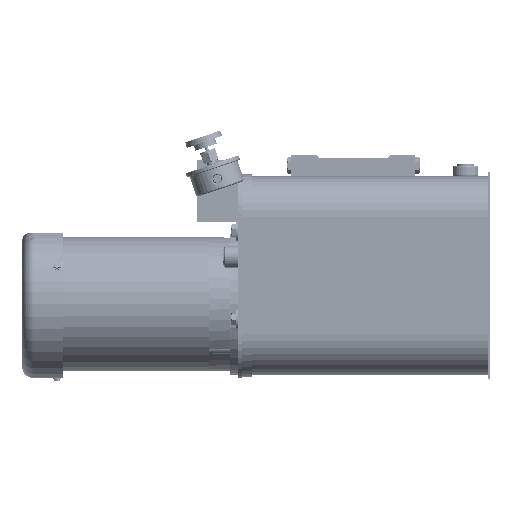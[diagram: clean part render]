
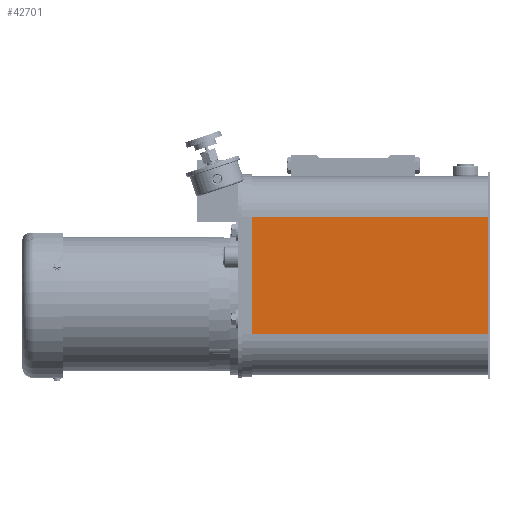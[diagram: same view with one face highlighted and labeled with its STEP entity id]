
A CAD part, top view. The second image highlights one B-rep face of the part: STEP entity #42701.
In plain terms, the highlighted planar face has unit normal (0, 0, 1).
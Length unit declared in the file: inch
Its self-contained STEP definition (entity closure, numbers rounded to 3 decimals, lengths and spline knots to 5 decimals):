
#19803 = EDGE_CURVE ( 'NONE', #56224, #132502, #169235, .T. ) ;
#32694 = VERTEX_POINT ( 'NONE', #416527 ) ;
#42701 = ADVANCED_FACE ( 'NONE', ( #265107 ), #368776, .T. ) ;
#49981 = DIRECTION ( 'NONE',  ( 1., 0., 0. ) ) ;
#56224 = VERTEX_POINT ( 'NONE', #342785 ) ;
#71835 = CARTESIAN_POINT ( 'NONE',  ( 4.47645, 5.52589, 15.4593 ) ) ;
#86848 = CARTESIAN_POINT ( 'NONE',  ( 4.47645, 11.15089, 15.4593 ) ) ;
#101533 = CARTESIAN_POINT ( 'NONE',  ( 16.35685, 13.33839, 15.4593 ) ) ;
#102755 = EDGE_CURVE ( 'NONE', #132502, #32694, #274255, .T. ) ;
#104506 = ORIENTED_EDGE ( 'NONE', *, *, #19803, .F. ) ;
#118699 = LINE ( 'NONE', #71835, #433578 ) ;
#132502 = VERTEX_POINT ( 'NONE', #181410 ) ;
#135086 = ORIENTED_EDGE ( 'NONE', *, *, #343614, .T. ) ;
#146924 = CARTESIAN_POINT ( 'NONE',  ( 4.47645, 5.52589, 15.4593 ) ) ;
#169235 = LINE ( 'NONE', #437680, #297235 ) ;
#174541 = VERTEX_POINT ( 'NONE', #421303 ) ;
#181410 = CARTESIAN_POINT ( 'NONE',  ( 4.60145, 11.15089, 15.4593 ) ) ;
#225390 = VECTOR ( 'NONE', #49981, 39.37008 ) ;
#245630 = ORIENTED_EDGE ( 'NONE', *, *, #102755, .F. ) ;
#252978 = DIRECTION ( 'NONE',  ( 0., 1., 0. ) ) ;
#265107 = FACE_OUTER_BOUND ( 'NONE', #295988, .T. ) ;
#274255 = LINE ( 'NONE', #86848, #225390 ) ;
#295988 = EDGE_LOOP ( 'NONE', ( #245630, #104506, #135086, #435558 ) ) ;
#296168 = LINE ( 'NONE', #101533, #386138 ) ;
#296228 = DIRECTION ( 'NONE',  ( 1., 0., 0. ) ) ;
#297235 = VECTOR ( 'NONE', #252978, 39.37008 ) ;
#342785 = CARTESIAN_POINT ( 'NONE',  ( 4.60145, 5.52589, 15.4593 ) ) ;
#343614 = EDGE_CURVE ( 'NONE', #56224, #174541, #118699, .T. ) ;
#368776 = PLANE ( 'NONE',  #430298 ) ;
#386138 = VECTOR ( 'NONE', #402159, 39.37008 ) ;
#402159 = DIRECTION ( 'NONE',  ( 0., 1., 0. ) ) ;
#410521 = DIRECTION ( 'NONE',  ( 0., 1., 0. ) ) ;
#416527 = CARTESIAN_POINT ( 'NONE',  ( 16.35685, 11.15089, 15.4593 ) ) ;
#416775 = EDGE_CURVE ( 'NONE', #174541, #32694, #296168, .T. ) ;
#421303 = CARTESIAN_POINT ( 'NONE',  ( 16.35685, 5.52589, 15.4593 ) ) ;
#430298 = AXIS2_PLACEMENT_3D ( 'NONE', #146924, #486833, #410521 ) ;
#433578 = VECTOR ( 'NONE', #296228, 39.37008 ) ;
#435558 = ORIENTED_EDGE ( 'NONE', *, *, #416775, .T. ) ;
#437680 = CARTESIAN_POINT ( 'NONE',  ( 4.60145, 5.52589, 15.4593 ) ) ;
#486833 = DIRECTION ( 'NONE',  ( 0., 0., 1. ) ) ;
